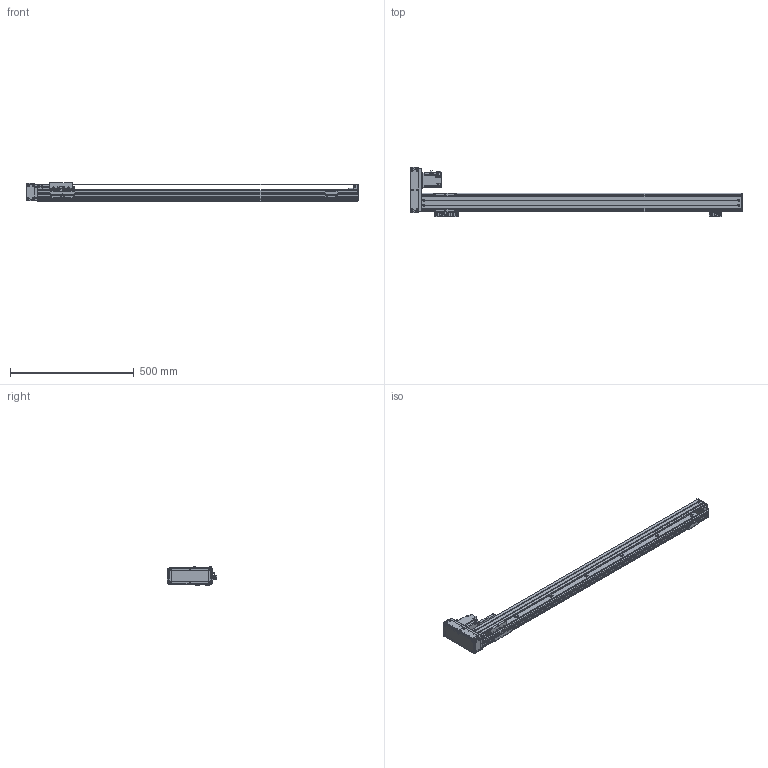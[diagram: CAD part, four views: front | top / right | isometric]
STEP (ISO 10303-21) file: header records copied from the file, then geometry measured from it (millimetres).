
FILE_DESCRIPTION(/* description */ (''),/* implementation_level */ '2;1');
FILE_NAME(/* name */ '\\192.168.0.160\disk1\HAN SHIN Master\B-설계부문\C-표준\B-2024년\BC02-표준도면\+로봇 개선표준도면\홈페이지 표준 도면\홈페이지 최종 작업 폴더\3D\HR\HR75\HR75병렬\좌병렬\HR75-L20-N1B-1100-R10.stp',/* time_stamp */ '2025-01-18T15:23:03+09:00',/* author */ ('user'),/* organization */ (''),/* preprocessor_version */ 'ST-DEVELOPER v18.1',/* originating_system */ 'Autodesk Inventor 2022',/* authorisation */ '');
FILE_SCHEMA (('CONFIG_CONTROL_DESIGN'));
Products named in the file (23): HG75-L20-N1B-0500-R10 - 간소화; BASE; HR75 FRONT BLOCK; HR75 REAR COVER-TENTION; HR75 TENSION REAR BLOCK; HG3UPCOV001; H 15F_BLOCK; HR65,75 SENSOR DOG; HG90STOPPER - 20L; HG90STOPPER - 27L; MOTOR PLATE-200W(MITSUBISHI); HC75-LR-MOTOR PLATE(200W)-사출; 화살표; HR75-LR-BELT COVER(200W); HR75-BELT COVER-COVER2; HR75-BELT COVER-COVER; hg-kr23_; HR65-BELT COVER-COVER3; M-5HL-4; HR75 W TABLE; LMKE1520 NUT; SENSOR BRK(EE-SX674A); EE_SX674A
Assembly tree (28 placements, depth 2):
  HG75-L20-N1B-0500-R10 - 간소화
    BASE
    HR75 FRONT BLOCK
    HR75 REAR COVER-TENTION
    SENSOR BRK(EE-SX674A)  x3
    EE_SX674A  x3
    HR75 TENSION REAR BLOCK
    HG3UPCOV001
    H 15F_BLOCK
    HR65,75 SENSOR DOG
    HG90STOPPER - 20L
    HG90STOPPER - 27L
    MOTOR PLATE-200W(MITSUBISHI)
    HC75-LR-MOTOR PLATE(200W)-사출
    화살표  x2
    HR75-LR-BELT COVER(200W)
    HR75-BELT COVER-COVER2
    HR75-BELT COVER-COVER
    HR65-BELT COVER-COVER3  x2
    hg-kr23_
    M-5HL-4
    HR75 W TABLE
    LMKE1520 NUT
Bounding box: 1339 x 199 x 73 mm (x, y, z)
Volume: 2068240.3 mm3; surface area: 947144 mm2
Topology: 28 solids, 28 shells, 2924 faces, 8051 edges, 5321 vertices
Faces by surface type: plane 2183, cylinder 626, cone 107, sphere 8
Full cylindrical faces by diameter (mm): 1.8 x1, 2 x4, 2.013 x2, 2.459 x16, 2.5 x2, 3 x8, 3.242 x46, 3.4 x20, 3.5 x6, 4.134 x48, 4.5 x22, 4.917 x5, 5 x31, 5.5 x32, 5.6 x8, 5.8 x4, 5.9 x8, 6 x4, 6.5 x1, 7 x1, 8 x1, 9.5 x28, 14 x1, 15 x3, 17 x1, 20 x1, 25 x2, 28 x1, 32 x2, 33.7 x1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
Entity records: 88377 total; most frequent: CARTESIAN_POINT 15952, ORIENTED_EDGE 14986, DIRECTION 14248, EDGE_CURVE 7493, LINE 6174, VECTOR 6174, VERTEX_POINT 4989, AXIS2_PLACEMENT_3D 4037
